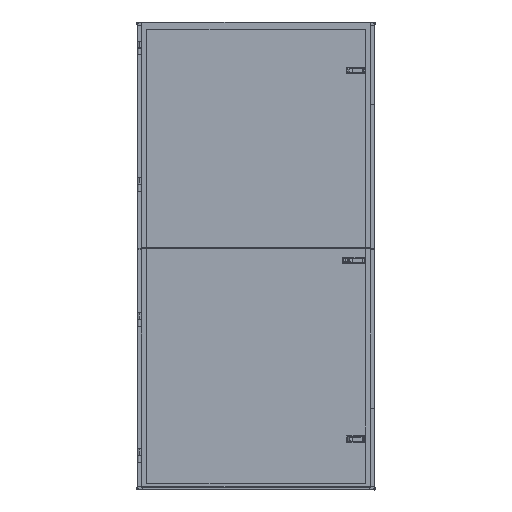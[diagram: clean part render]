
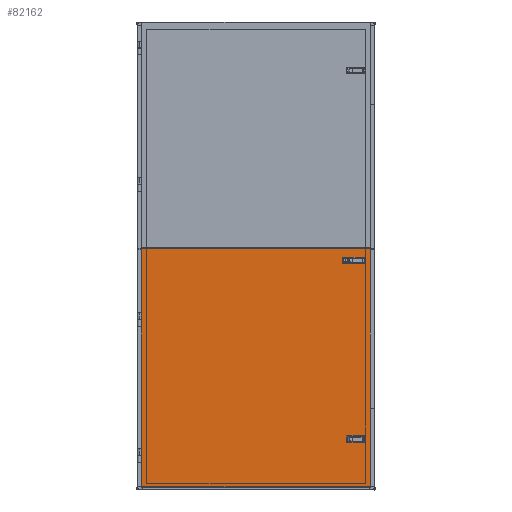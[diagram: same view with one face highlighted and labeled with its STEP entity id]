
A CAD part, top view. The second image highlights one B-rep face of the part: STEP entity #82162.
In plain terms, the highlighted planar face has unit normal (0, 0, -1).
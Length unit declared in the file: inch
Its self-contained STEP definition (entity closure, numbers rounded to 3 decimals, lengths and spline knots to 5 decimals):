
#85 = EDGE_LOOP ( 'NONE', ( #77822, #58837, #32128, #69290 ) ) ;
#800 = VERTEX_POINT ( 'NONE', #17545 ) ;
#974 = ORIENTED_EDGE ( 'NONE', *, *, #19955, .F. ) ;
#2317 = CARTESIAN_POINT ( 'NONE',  ( 47.16186, 8.99551, 0. ) ) ;
#3801 = EDGE_CURVE ( 'NONE', #45100, #70047, #41138, .T. ) ;
#3988 = CARTESIAN_POINT ( 'NONE',  ( 48.15884, 1.08038, 0. ) ) ;
#4339 = LINE ( 'NONE', #4536, #70615 ) ;
#4352 = CARTESIAN_POINT ( 'NONE',  ( 47.16186, 40.49551, 0. ) ) ;
#4536 = CARTESIAN_POINT ( 'NONE',  ( 43.21186, 40.49551, 0. ) ) ;
#4710 = CARTESIAN_POINT ( 'NONE',  ( 48.07396, 1.08038, 0. ) ) ;
#5112 = DIRECTION ( 'NONE',  ( 0., 1., 0. ) ) ;
#5378 = DIRECTION ( 'NONE',  ( 1., 0., 0. ) ) ;
#5950 = LINE ( 'NONE', #78882, #74274 ) ;
#6801 = VECTOR ( 'NONE', #35961, 39.37008 ) ;
#7022 = CARTESIAN_POINT ( 'NONE',  ( 43.21186, 41.49551, 0. ) ) ;
#8339 = CARTESIAN_POINT ( 'NONE',  ( 48.07396, 0.99551, 0. ) ) ;
#8867 = CARTESIAN_POINT ( 'NONE',  ( 47.16186, 41.49551, 0. ) ) ;
#8982 = DIRECTION ( 'NONE',  ( -1., 0., 0. ) ) ;
#9230 = CARTESIAN_POINT ( 'NONE',  ( 47.16186, 40.49551, 0. ) ) ;
#9574 = CARTESIAN_POINT ( 'NONE',  ( 47.16186, 40.49551, 0. ) ) ;
#10825 = CARTESIAN_POINT ( 'NONE',  ( 48.07396, 43.03563, 0. ) ) ;
#11216 = DIRECTION ( 'NONE',  ( 0., 1., 0. ) ) ;
#12486 = EDGE_CURVE ( 'NONE', #23603, #41644, #48641, .T. ) ;
#12817 = LINE ( 'NONE', #22274, #63649 ) ;
#14925 = VECTOR ( 'NONE', #15006, 39.37008 ) ;
#15006 = DIRECTION ( 'NONE',  ( 0., 1., 0. ) ) ;
#16225 = ORIENTED_EDGE ( 'NONE', *, *, #12486, .F. ) ;
#17453 = ORIENTED_EDGE ( 'NONE', *, *, #64139, .F. ) ;
#17545 = CARTESIAN_POINT ( 'NONE',  ( 47.16186, 9.99551, 0. ) ) ;
#18451 = CARTESIAN_POINT ( 'NONE',  ( 44.10186, 8.99551, 0. ) ) ;
#18661 = VECTOR ( 'NONE', #63713, 39.37008 ) ;
#19649 = FACE_OUTER_BOUND ( 'NONE', #31073, .T. ) ;
#19930 = CARTESIAN_POINT ( 'NONE',  ( 7.77491, 43.03563, 0. ) ) ;
#19955 = EDGE_CURVE ( 'NONE', #41644, #79147, #4339, .T. ) ;
#20007 = EDGE_CURVE ( 'NONE', #79188, #70580, #31357, .T. ) ;
#21024 = CARTESIAN_POINT ( 'NONE',  ( 43.21186, 40.49551, 0. ) ) ;
#21271 = CARTESIAN_POINT ( 'NONE',  ( 48.15884, 43.03563, 0. ) ) ;
#22274 = CARTESIAN_POINT ( 'NONE',  ( 47.16186, 9.99551, 0. ) ) ;
#23603 = VERTEX_POINT ( 'NONE', #4352 ) ;
#24828 = VERTEX_POINT ( 'NONE', #4710 ) ;
#25649 = ORIENTED_EDGE ( 'NONE', *, *, #42846, .F. ) ;
#27535 = CARTESIAN_POINT ( 'NONE',  ( 47.16186, 8.99551, 0. ) ) ;
#27979 = DIRECTION ( 'NONE',  ( -1., 0., 0. ) ) ;
#28748 = VECTOR ( 'NONE', #74923, 39.37008 ) ;
#31073 = EDGE_LOOP ( 'NONE', ( #25649, #50270, #58471, #17453 ) ) ;
#31357 = LINE ( 'NONE', #18451, #64454 ) ;
#32128 = ORIENTED_EDGE ( 'NONE', *, *, #49857, .F. ) ;
#35078 = CARTESIAN_POINT ( 'NONE',  ( 44.10186, 9.99551, 0. ) ) ;
#35704 = DIRECTION ( 'NONE',  ( 1., 0., 0. ) ) ;
#35961 = DIRECTION ( 'NONE',  ( 0., -1., 0. ) ) ;
#36616 = CARTESIAN_POINT ( 'NONE',  ( 7.77491, 1.08038, 0. ) ) ;
#38496 = CARTESIAN_POINT ( 'NONE',  ( 48.15884, 0.99551, 0. ) ) ;
#39210 = CARTESIAN_POINT ( 'NONE',  ( 7.77491, 0.99551, 0. ) ) ;
#39384 = DIRECTION ( 'NONE',  ( 1., 0., 0. ) ) ;
#39566 = EDGE_CURVE ( 'NONE', #70047, #24828, #58101, .T. ) ;
#41138 = LINE ( 'NONE', #39210, #43233 ) ;
#41644 = VERTEX_POINT ( 'NONE', #21024 ) ;
#42131 = LINE ( 'NONE', #9230, #6801 ) ;
#42846 = EDGE_CURVE ( 'NONE', #24828, #43675, #67751, .T. ) ;
#43233 = VECTOR ( 'NONE', #85176, 39.37008 ) ;
#43675 = VERTEX_POINT ( 'NONE', #10825 ) ;
#44594 = LINE ( 'NONE', #27535, #75445 ) ;
#45100 = VERTEX_POINT ( 'NONE', #19930 ) ;
#45182 = DIRECTION ( 'NONE',  ( 0., 0., 1. ) ) ;
#45906 = LINE ( 'NONE', #21271, #78823 ) ;
#46123 = AXIS2_PLACEMENT_3D ( 'NONE', #38496, #45182, #5378 ) ;
#48641 = LINE ( 'NONE', #9574, #50736 ) ;
#49036 = VERTEX_POINT ( 'NONE', #56162 ) ;
#49857 = EDGE_CURVE ( 'NONE', #49036, #79188, #44594, .T. ) ;
#50270 = ORIENTED_EDGE ( 'NONE', *, *, #39566, .F. ) ;
#50736 = VECTOR ( 'NONE', #8982, 39.37008 ) ;
#54029 = CARTESIAN_POINT ( 'NONE',  ( 44.10186, 8.99551, 0. ) ) ;
#54209 = DIRECTION ( 'NONE',  ( -1., 0., 0. ) ) ;
#54903 = FACE_BOUND ( 'NONE', #85, .T. ) ;
#56162 = CARTESIAN_POINT ( 'NONE',  ( 47.16186, 8.99551, 0. ) ) ;
#57597 = ORIENTED_EDGE ( 'NONE', *, *, #67639, .F. ) ;
#58101 = LINE ( 'NONE', #3988, #18661 ) ;
#58471 = ORIENTED_EDGE ( 'NONE', *, *, #3801, .F. ) ;
#58837 = ORIENTED_EDGE ( 'NONE', *, *, #20007, .F. ) ;
#63649 = VECTOR ( 'NONE', #35704, 39.37008 ) ;
#63713 = DIRECTION ( 'NONE',  ( 1., 0., 0. ) ) ;
#63977 = LINE ( 'NONE', #2317, #28748 ) ;
#64139 = EDGE_CURVE ( 'NONE', #43675, #45100, #45906, .T. ) ;
#64454 = VECTOR ( 'NONE', #5112, 39.37008 ) ;
#65467 = VERTEX_POINT ( 'NONE', #8867 ) ;
#66304 = EDGE_CURVE ( 'NONE', #79147, #65467, #5950, .T. ) ;
#67639 = EDGE_CURVE ( 'NONE', #65467, #23603, #42131, .T. ) ;
#67751 = LINE ( 'NONE', #8339, #14925 ) ;
#69290 = ORIENTED_EDGE ( 'NONE', *, *, #76010, .F. ) ;
#70047 = VERTEX_POINT ( 'NONE', #36616 ) ;
#70355 = FACE_BOUND ( 'NONE', #76466, .T. ) ;
#70580 = VERTEX_POINT ( 'NONE', #35078 ) ;
#70615 = VECTOR ( 'NONE', #11216, 39.37008 ) ;
#71337 = PLANE ( 'NONE',  #46123 ) ;
#72309 = EDGE_CURVE ( 'NONE', #70580, #800, #12817, .T. ) ;
#74274 = VECTOR ( 'NONE', #39384, 39.37008 ) ;
#74923 = DIRECTION ( 'NONE',  ( 0., -1., 0. ) ) ;
#75445 = VECTOR ( 'NONE', #54209, 39.37008 ) ;
#76010 = EDGE_CURVE ( 'NONE', #800, #49036, #63977, .T. ) ;
#76466 = EDGE_LOOP ( 'NONE', ( #57597, #83355, #974, #16225 ) ) ;
#77822 = ORIENTED_EDGE ( 'NONE', *, *, #72309, .F. ) ;
#78823 = VECTOR ( 'NONE', #27979, 39.37008 ) ;
#78882 = CARTESIAN_POINT ( 'NONE',  ( 47.16186, 41.49551, 0. ) ) ;
#79147 = VERTEX_POINT ( 'NONE', #7022 ) ;
#79188 = VERTEX_POINT ( 'NONE', #54029 ) ;
#82162 = ADVANCED_FACE ( 'NONE', ( #19649, #70355, #54903 ), #71337, .F. ) ;
#83355 = ORIENTED_EDGE ( 'NONE', *, *, #66304, .F. ) ;
#85176 = DIRECTION ( 'NONE',  ( 0., -1., 0. ) ) ;
